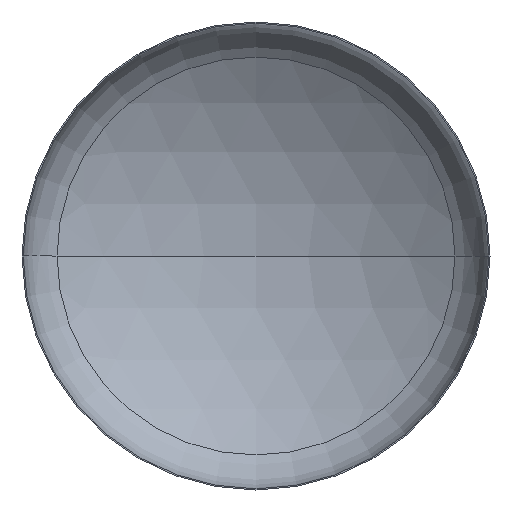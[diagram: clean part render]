
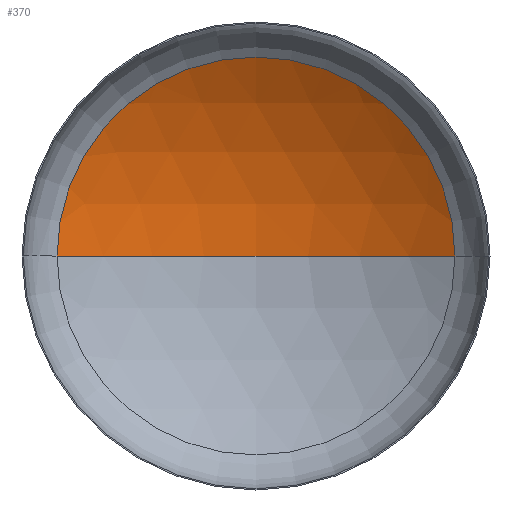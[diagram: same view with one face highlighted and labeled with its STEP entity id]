
A CAD part, front view. The second image highlights one B-rep face of the part: STEP entity #370.
In plain terms, the highlighted spherical face has radius 5600 mm.
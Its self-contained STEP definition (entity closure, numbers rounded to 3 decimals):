
#2 = ORIENTED_EDGE ( 'NONE', *, *, #42, .F. ) ;
#14 = EDGE_CURVE ( 'NONE', #36, #70, #102, .T. ) ;
#32 = AXIS2_PLACEMENT_3D ( 'NONE', #99, #92, #217 ) ;
#35 = EDGE_CURVE ( 'NONE', #181, #36, #302, .T. ) ;
#36 = VERTEX_POINT ( 'NONE', #144 ) ;
#42 = EDGE_CURVE ( 'NONE', #181, #70, #238, .T. ) ;
#67 = ORIENTED_EDGE ( 'NONE', *, *, #14, .T. ) ;
#70 = VERTEX_POINT ( 'NONE', #107 ) ;
#73 = ORIENTED_EDGE ( 'NONE', *, *, #35, .T. ) ;
#92 = DIRECTION ( 'NONE',  ( 0., 0., 1. ) ) ;
#96 = EDGE_LOOP ( 'NONE', ( #2, #73, #67 ) ) ;
#99 = CARTESIAN_POINT ( 'NONE',  ( 0., -3773.942, 0. ) ) ;
#102 = CIRCLE ( 'NONE', #361, 2975.929 ) ;
#107 = CARTESIAN_POINT ( 'NONE',  ( -2975.929, 969.88, 0. ) ) ;
#134 = DIRECTION ( 'NONE',  ( 0., 0., -1. ) ) ;
#135 = CARTESIAN_POINT ( 'NONE',  ( 0., -3773.942, 0. ) ) ;
#144 = CARTESIAN_POINT ( 'NONE',  ( 2975.929, 969.88, 0. ) ) ;
#162 = DIRECTION ( 'NONE',  ( -1., 0., 0. ) ) ;
#171 = CARTESIAN_POINT ( 'NONE',  ( 0., 1826.058, 0. ) ) ;
#181 = VERTEX_POINT ( 'NONE', #171 ) ;
#182 = DIRECTION ( 'NONE',  ( -1., 0., 0. ) ) ;
#192 = DIRECTION ( 'NONE',  ( 1., 0., 0. ) ) ;
#195 = DIRECTION ( 'NONE',  ( 0., -1., 0. ) ) ;
#196 = CARTESIAN_POINT ( 'NONE',  ( 0., 969.88, 0. ) ) ;
#215 = FACE_OUTER_BOUND ( 'NONE', #96, .T. ) ;
#217 = DIRECTION ( 'NONE',  ( 1., 0., 0. ) ) ;
#234 = AXIS2_PLACEMENT_3D ( 'NONE', #288, #235, #182 ) ;
#235 = DIRECTION ( 'NONE',  ( 0., 0., -1. ) ) ;
#238 = CIRCLE ( 'NONE', #32, 5600. ) ;
#269 = SPHERICAL_SURFACE ( 'NONE', #234, 5600. ) ;
#288 = CARTESIAN_POINT ( 'NONE',  ( 0., -3773.942, 0. ) ) ;
#302 = CIRCLE ( 'NONE', #405, 5600. ) ;
#361 = AXIS2_PLACEMENT_3D ( 'NONE', #196, #195, #192 ) ;
#370 = ADVANCED_FACE ( 'NONE', ( #215 ), #269, .F. ) ;
#405 = AXIS2_PLACEMENT_3D ( 'NONE', #135, #134, #162 ) ;
